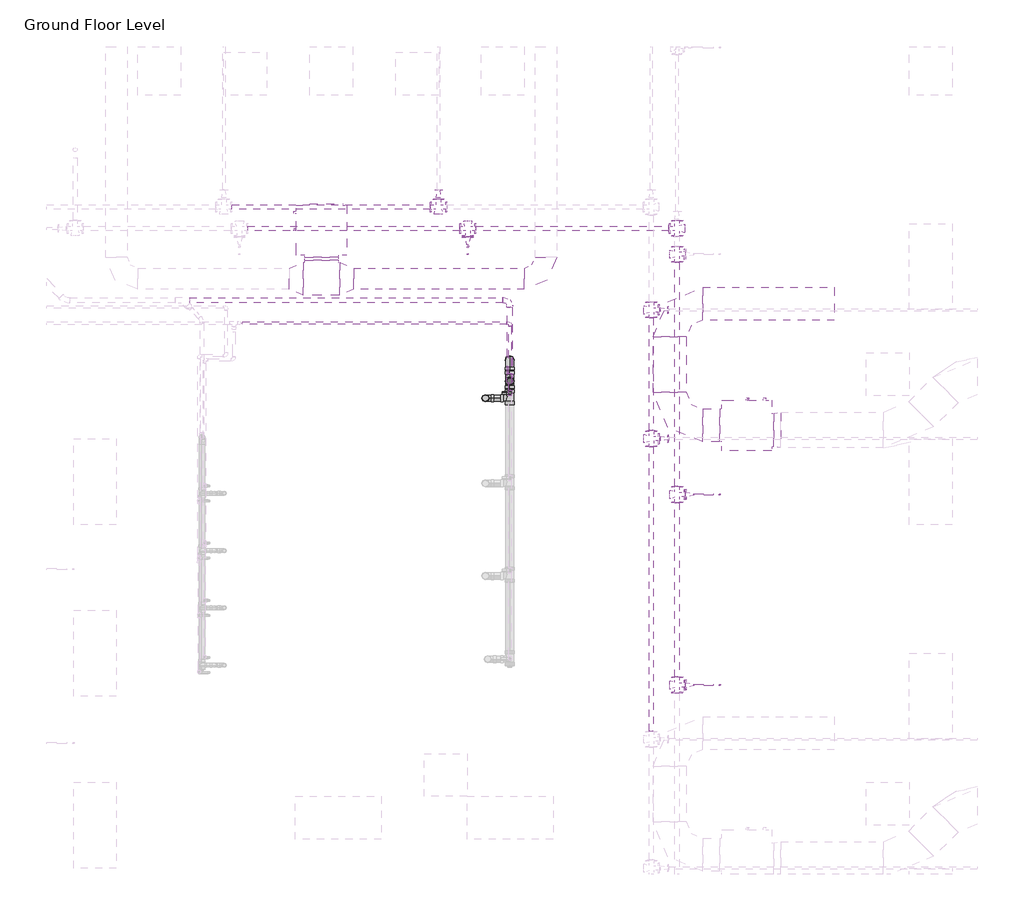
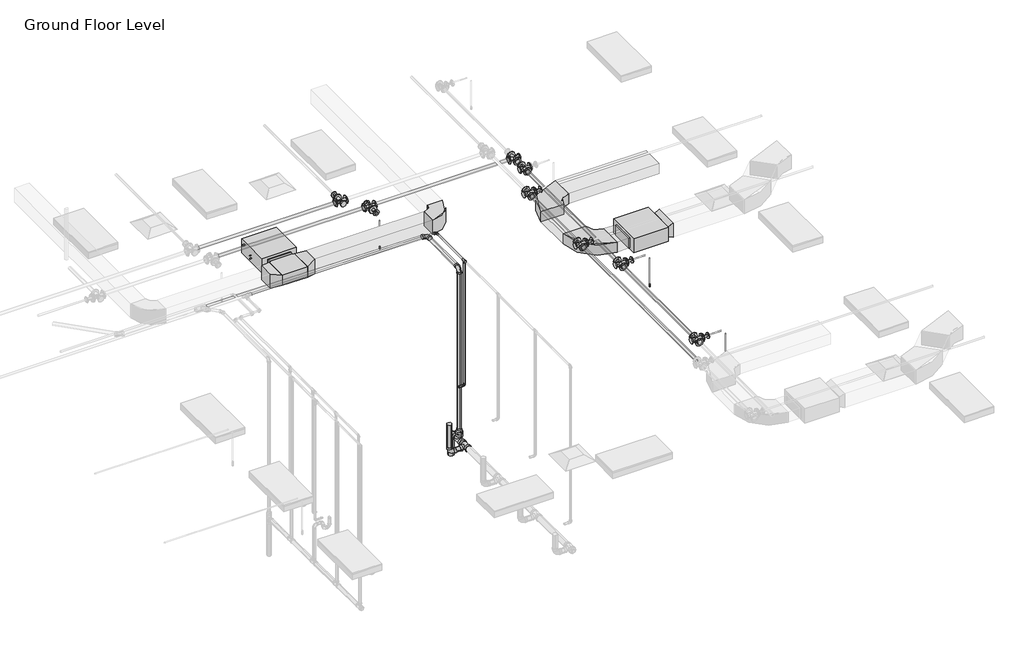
# One storey, part 62 of 68: 26 pipe segments, 24 pipe fittings, 9 duct fittings, 5 duct segments, 3 fire suppression terminals, 2 proxies.
"""IFC4 building model written with IfcOpenShell, lengths in millimetres."""

from ifc_helpers import new_model, si_unit, point, frame, frame_2d, origin, place, context, project, spatial, polyline, circle_curve, trimmed, segment, composite_curve, outline, extrude, transform, mapped, element, save
from components import fcu_daikin_iu_bad131e0, m_rectangular_elbow_radius_1_w_618da153, m_rectangular_elbow_radius_1_w_54c96895, m_rectangular_tee_standard_fa4de0e8, m_rectangular_transition_angle_45_degree_2b595dfe, m_rectangular_transition_angle_45_degree_27e6000f, m_rectangular_transition_angle_45_degree_1c32c0a1, m_rectangular_transition_angle_45_degree_6e5ad010, m_sprinkler_pendent_15_mm_pendent_06fcbd8e, m_bend_pvc_sch_40_dwv_standard_a4b99d37, m_bend_pvc_sch_40_dwv_standard_aa7efa4c, m_bend_pvc_sch_40_dwv_standard_c8221c0d, m_bend_pvc_sch_40_dwv_standard_69456cca, m_reducer_flanged_cs_class_150_standard_9dfe9ec5, m_reducer_flanged_cs_class_150_standard_a7631c35, m_reducer_flanged_cs_class_150_standard_55262df0, m_reducer_pvc_sch_40_dwv_standard_9996614f, m_tee_reducing_sanitary_pvc_sch_40_dwv_standard_b49161a9, m_tee_reducing_sanitary_pvc_sch_40_dwv_standard_c42f3c59, m_tee_round_base_flanged_cs_class_150_standard_dd767e04, standard_517a5a8d, standard_72b35c3b

model = new_model("IFC4")

# Units and contexts
model_context = context("Model", 3, world=origin())
ifc_project = project(units=[si_unit("LENGTHUNIT", "METRE", prefix="MILLI")], contexts=[model_context])

# Site, building, storey
site = spatial("IfcSite", under=ifc_project)
building = spatial("IfcBuilding", under=site)
storey = spatial("IfcBuildingStorey", under=building, Name="Ground Floor Level", Elevation=900.0)

# Proxies
placement = place(None, origin())
fcu_daikin_iu_shape = fcu_daikin_iu_bad131e0(model_context)
element("IfcBuildingElementProxy", 1, Name="FCU-DAIKIN IU : 4.5kW, 230V/50Hz/1Ph", ObjectType="FCU-DAIKIN IU : 4.5kW, 230V/50Hz/1Ph", at=placement, inside=storey, context=model_context, shape_type="MappedRepresentation", body=[
    mapped(fcu_daikin_iu_shape, transform((1027.7672395, 14745.2153534, 3934.0872564), x_axis=(-1.0, 0.0, 0.0), y_axis=(0.0, -1.0, 0.0), z_axis=(0.0, 0.0, 1.0))),
])
element("IfcBuildingElementProxy", 2, Name="FCU-DAIKIN IU : 4.5kW, 230V/50Hz/1Ph", ObjectType="FCU-DAIKIN IU : 4.5kW, 230V/50Hz/1Ph", at=placement, inside=storey, context=model_context, shape_type="MappedRepresentation", body=[
    mapped(fcu_daikin_iu_shape, transform((6968.8139492, 12019.6779527, 3934.0932729), x_axis=(0.0, 1.0, 0.0), y_axis=(-1.0, 0.0, 0.0), z_axis=(0.0, 0.0, 1.0))),
])

# Duct fittings
m_rectangular_elbow_radius_1_w_shape = m_rectangular_elbow_radius_1_w_618da153(model_context)
element("IfcDuctFitting", 3, ObjectType="M_Rectangular Elbow - Radius : 1 W", at=placement, inside=storey, context=model_context, shape_type="MappedRepresentation", body=[
    mapped(m_rectangular_elbow_radius_1_w_shape, transform((4162.7672395, 14069.8153534, 4075.2872564), x_axis=(1.0, 0.0, 0.0), y_axis=(0.0, 1.0, 0.0), z_axis=(0.0, 0.0, 1.0))),
])
m_rectangular_elbow_radius_1_w_2_shape = m_rectangular_elbow_radius_1_w_54c96895(model_context)
element("IfcDuctFitting", 4, ObjectType="M_Rectangular Elbow - Radius : 1 W", at=placement, inside=storey, context=model_context, shape_type="MappedRepresentation", body=[
    mapped(m_rectangular_elbow_radius_1_w_2_shape, transform((5893.4139492, 12019.6779527, 4075.2932729), x_axis=(0.0, -1.0, 0.0), y_axis=(1.0, 0.0, 0.0), z_axis=(0.0, 0.0, 1.0))),
])
element("IfcDuctFitting", 5, ObjectType="M_Rectangular Elbow - Radius : 1 W", at=placement, inside=storey, context=model_context, shape_type="MappedRepresentation", body=[
    mapped(m_rectangular_elbow_radius_1_w_2_shape, transform((5893.4139492, 13719.6783949, 4075.2932729), x_axis=(-1.0, 0.0, 0.0), y_axis=(0.0, -1.0, 0.0), z_axis=(0.0, 0.0, 1.0))),
])
m_rectangular_tee_standard_shape = m_rectangular_tee_standard_fa4de0e8(model_context)
element("IfcDuctFitting", 6, ObjectType="M_Rectangular Tee : Standard", at=placement, inside=storey, context=model_context, shape_type="MappedRepresentation", body=[
    mapped(m_rectangular_tee_standard_shape, transform((1027.7672395, 14069.8153534, 4075.2872564), x_axis=(-1.0, 0.0, 0.0), y_axis=(0.0, -1.0, 0.0), z_axis=(0.0, 0.0, 1.0))),
])
m_rectangular_transition_angle_45_degree_shape = m_rectangular_transition_angle_45_degree_2b595dfe(model_context)
element("IfcDuctFitting", 7, ObjectType="M_Rectangular Transition - Angle : 45 Degree", at=placement, inside=storey, context=model_context, shape_type="MappedRepresentation", body=[
    mapped(m_rectangular_transition_angle_45_degree_shape, transform((7344.2139492, 11956.1779527, 4100.0057729), x_axis=(1.0, 0.0, 0.0), y_axis=(0.0, 1.0, 0.0), z_axis=(0.0, 0.0, 1.0))),
])
m_rectangular_transition_angle_45_degree_2_shape = m_rectangular_transition_angle_45_degree_27e6000f(model_context)
element("IfcDuctFitting", 8, ObjectType="M_Rectangular Transition - Angle : 45 Degree", at=placement, inside=storey, context=model_context, shape_type="MappedRepresentation", body=[
    mapped(m_rectangular_transition_angle_45_degree_2_shape, transform((1027.7672395, 14369.8153534, 4075.2872564), x_axis=(0.0, -1.0, 0.0), y_axis=(1.0, 0.0, 0.0), z_axis=(0.0, 0.0, 1.0))),
])
m_rectangular_transition_angle_45_degree_3_shape = m_rectangular_transition_angle_45_degree_1c32c0a1(model_context)
element("IfcDuctFitting", 9, ObjectType="M_Rectangular Transition - Angle : 45 Degree", at=placement, inside=storey, context=model_context, shape_type="MappedRepresentation", body=[
    mapped(m_rectangular_transition_angle_45_degree_3_shape, transform((1027.7672395, 14326.1149854, 4075.2872564), x_axis=(0.0, -1.0, 0.0), y_axis=(1.0, 0.0, 0.0), z_axis=(0.0, 0.0, 1.0))),
])
m_rectangular_transition_angle_45_degree_4_shape = m_rectangular_transition_angle_45_degree_6e5ad010(model_context)
element("IfcDuctFitting", 10, ObjectType="M_Rectangular Transition - Angle : 45 Degree", at=placement, inside=storey, context=model_context, shape_type="MappedRepresentation", body=[
    mapped(m_rectangular_transition_angle_45_degree_4_shape, transform((771.8297395, 14069.8153534, 4075.2872564), x_axis=(-1.0, 0.0, 0.0), y_axis=(0.0, -1.0, 0.0), z_axis=(0.0, 0.0, 1.0))),
])
element("IfcDuctFitting", 11, ObjectType="M_Rectangular Transition - Angle : 45 Degree", at=placement, inside=storey, context=model_context, shape_type="MappedRepresentation", body=[
    mapped(m_rectangular_transition_angle_45_degree_4_shape, transform((1283.7047395, 14069.8153534, 4075.2872564), x_axis=(1.0, 0.0, 0.0), y_axis=(0.0, 1.0, 0.0), z_axis=(0.0, 0.0, 1.0))),
])

# Duct segments
element("IfcDuctSegment", 12, ObjectType="Radius Elbows / Taps", at=placement, inside=storey, context=model_context, shape_type="SweptSolid", body=[
    extrude(outline(polyline([(1479.1051497, 13919.8153534), (1479.1051497, 14219.8153534), (3862.7672395, 14219.8153534), (3862.7672395, 13919.8153534), (1479.1051497, 13919.8153534)])), frame((0.0, 0.0, 3925.2872564), z_axis=(0.0, 0.0, 1.0), x_axis=(1.0, 0.0, 0.0)), (0.0, 0.0, 1.0), 300.0),
])
element("IfcDuctSegment", 13, ObjectType="Radius Elbows / Taps", at=placement, inside=storey, context=model_context, shape_type="SweptSolid", body=[
    extrude(outline(polyline([(796.7672395, 14369.4532214), (1258.7672395, 14369.4532214), (1258.7672395, 14326.1149854), (796.7672395, 14326.1149854), (796.7672395, 14369.4532214)])), frame((0.0, 0.0, 3968.2872564), z_axis=(0.0, 0.0, 1.0), x_axis=(1.0, 0.0, 0.0)), (0.0, 0.0, 1.0), 214.0),
])
element("IfcDuctSegment", 14, ObjectType="Radius Elbows / Taps", at=placement, inside=storey, context=model_context, shape_type="SweptSolid", body=[
    extrude(outline(polyline([(6593.4139492, 12250.6154527), (6593.4139492, 11788.7404527), (6355.2889492, 11788.7404527), (6355.2889492, 12250.6154527), (6593.4139492, 12250.6154527)])), frame((0.0, 0.0, 3968.1432729), z_axis=(0.0, 0.0, 1.0), x_axis=(1.0, 0.0, 0.0)), (0.0, 0.0, 1.0), 214.3),
])
element("IfcDuctSegment", 15, ObjectType="Radius Elbows / Taps", at=placement, inside=storey, context=model_context, shape_type="SweptSolid", body=[
    extrude(outline(polyline([(6124.3514492, 12481.5529527), (5662.4764492, 12481.5529527), (5662.4764492, 13257.8033949), (6124.3514492, 13257.8033949), (6124.3514492, 12481.5529527)])), frame((0.0, 0.0, 3968.1432729), z_axis=(0.0, 0.0, 1.0), x_axis=(1.0, 0.0, 0.0)), (0.0, 0.0, 1.0), 214.3),
])
element("IfcDuctSegment", 16, ObjectType="Radius Elbows / Taps", at=placement, inside=storey, context=model_context, shape_type="SweptSolid", body=[
    extrude(outline(polyline([(6355.2889492, 13488.7408949), (6355.2889492, 13950.6158949), (8193.4139492, 13950.6158949), (8193.4139492, 13488.7408949), (6355.2889492, 13488.7408949)])), frame((0.0, 0.0, 3968.1432729), z_axis=(0.0, 0.0, 1.0), x_axis=(1.0, 0.0, 0.0)), (0.0, 0.0, 1.0), 214.3),
])

# Fire suppression terminals
m_sprinkler_pendent_15_mm_pendent_shape = m_sprinkler_pendent_15_mm_pendent_06fcbd8e(model_context)
element("IfcFireSuppressionTerminal", 17, ObjectType="M_Sprinkler - Pendent : 15 mm Pendent", at=placement, inside=storey, context=model_context, shape_type="MappedRepresentation", body=[
    mapped(m_sprinkler_pendent_15_mm_pendent_shape, transform((3071.8868905, 14412.7243649, 3650.0), x_axis=(1.0, 0.0, 0.0), y_axis=(0.0, 1.0, 0.0), z_axis=(0.0, 0.0, 1.0))),
])
element("IfcFireSuppressionTerminal", 18, ObjectType="M_Sprinkler - Pendent : 15 mm Pendent", at=placement, inside=storey, context=model_context, shape_type="MappedRepresentation", body=[
    mapped(m_sprinkler_pendent_15_mm_pendent_shape, transform((6592.5481019, 11054.9808263, 3650.0), x_axis=(1.0, 0.0, 0.0), y_axis=(0.0, 1.0, 0.0), z_axis=(0.0, 0.0, 1.0))),
])
element("IfcFireSuppressionTerminal", 19, ObjectType="M_Sprinkler - Pendent : 15 mm Pendent", at=placement, inside=storey, context=model_context, shape_type="MappedRepresentation", body=[
    mapped(m_sprinkler_pendent_15_mm_pendent_shape, transform((6592.5481019, 8393.5579106, 3650.0), x_axis=(1.0, 0.0, 0.0), y_axis=(0.0, 1.0, 0.0), z_axis=(0.0, 0.0, 1.0))),
])

# Pipe fittings
m_bend_pvc_sch_40_dwv_standard_shape = m_bend_pvc_sch_40_dwv_standard_a4b99d37(model_context)
element("IfcPipeFitting", 20, ObjectType="M_Bend - PVC - Sch 40 - DWV : Standard", at=placement, inside=storey, context=model_context, shape_type="MappedRepresentation", body=[
    mapped(m_bend_pvc_sch_40_dwv_standard_shape, transform((3319.2245422, 12401.0385609, 390.1593073), x_axis=(0.0, 0.0, -1.0), y_axis=(1.0, 0.0, 0.0), z_axis=(0.0, -1.0, 0.0))),
])
m_bend_pvc_sch_40_dwv_standard_2_shape = m_bend_pvc_sch_40_dwv_standard_aa7efa4c(model_context)
element("IfcPipeFitting", 21, ObjectType="M_Bend - PVC - Sch 40 - DWV : Standard", at=placement, inside=storey, context=model_context, shape_type="MappedRepresentation", body=[
    mapped(m_bend_pvc_sch_40_dwv_standard_2_shape, transform((3657.4922763, 12931.9692954, 384.8), x_axis=(0.0, 0.9999500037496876, -0.00999950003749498), y_axis=(0.0, -0.00999950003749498, -0.9999500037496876), z_axis=(-1.0, 0.0, 0.0))),
])
m_bend_pvc_sch_40_dwv_standard_3_shape = m_bend_pvc_sch_40_dwv_standard_c8221c0d(model_context)
element("IfcPipeFitting", 22, ObjectType="M_Bend - PVC - Sch 40 - DWV : Standard", at=placement, inside=storey, context=model_context, shape_type="MappedRepresentation", body=[
    mapped(m_bend_pvc_sch_40_dwv_standard_3_shape, transform((3657.4860907, 12640.4076203, 4054.1870995), x_axis=(0.0, 0.0, 1.0), y_axis=(0.0, 1.0, 0.0), z_axis=(-1.0, 0.0, 0.0))),
])
m_bend_pvc_sch_40_dwv_standard_4_shape = m_bend_pvc_sch_40_dwv_standard_69456cca(model_context)
element("IfcPipeFitting", 23, ObjectType="M_Bend - PVC - Sch 40 - DWV : Standard", at=placement, inside=storey, context=model_context, shape_type="MappedRepresentation", body=[
    mapped(m_bend_pvc_sch_40_dwv_standard_4_shape, transform((3657.4860907, 13768.7316659, 4065.526469), x_axis=(0.0, 0.9999495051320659, 0.010049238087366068), y_axis=(-0.9999499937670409, -0.00010049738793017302, 0.009999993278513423), z_axis=(0.01000049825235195, -0.010048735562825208, 0.9998995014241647))),
])
m_reducer_flanged_cs_class_150_standard_shape = m_reducer_flanged_cs_class_150_standard_9dfe9ec5(model_context)
element("IfcPipeFitting", 24, ObjectType="M_Reducer - Flanged - CS - Class 150 : Standard", at=placement, inside=storey, context=model_context, shape_type="MappedRepresentation", body=[
    mapped(m_reducer_flanged_cs_class_150_standard_shape, transform((6111.057812, 11054.9808263, 4291.2754753), x_axis=(1.0, 0.0, 0.0), y_axis=(0.0, 0.0, -1.0), z_axis=(0.0, 1.0, 0.0))),
])
element("IfcPipeFitting", 25, ObjectType="M_Reducer - Flanged - CS - Class 150 : Standard", at=placement, inside=storey, context=model_context, shape_type="MappedRepresentation", body=[
    mapped(m_reducer_flanged_cs_class_150_standard_shape, transform((6111.057812, 8393.5579106, 4291.2754753), x_axis=(1.0, 0.0, 0.0), y_axis=(0.0, 0.0, -1.0), z_axis=(0.0, 1.0, 0.0))),
])
m_reducer_flanged_cs_class_150_standard_2_shape = m_reducer_flanged_cs_class_150_standard_a7631c35(model_context)
element("IfcPipeFitting", 26, ObjectType="M_Reducer - Flanged - CS - Class 150 : Standard", at=placement, inside=storey, context=model_context, shape_type="MappedRepresentation", body=[
    mapped(m_reducer_flanged_cs_class_150_standard_2_shape, transform((2662.7672395, 15187.2009828, 4360.0), x_axis=(0.0, 1.0, 0.0), y_axis=(-1.0, 0.0, 0.0), z_axis=(0.0, 0.0, 1.0))),
])
element("IfcPipeFitting", 27, ObjectType="M_Reducer - Flanged - CS - Class 150 : Standard", at=placement, inside=storey, context=model_context, shape_type="MappedRepresentation", body=[
    mapped(m_reducer_flanged_cs_class_150_standard_2_shape, transform((5749.869498, 13635.2153534, 4360.0), x_axis=(1.0, 0.0, 0.0), y_axis=(0.0, 0.0, 1.0), z_axis=(0.0, -1.0, 0.0))),
])
element("IfcPipeFitting", 28, ObjectType="M_Reducer - Flanged - CS - Class 150 : Standard", at=placement, inside=storey, context=model_context, shape_type="MappedRepresentation", body=[
    mapped(m_reducer_flanged_cs_class_150_standard_2_shape, transform((5749.869498, 11835.2153534, 4360.0), x_axis=(1.0, 0.0, 0.0), y_axis=(0.0, 0.0, 1.0), z_axis=(0.0, -1.0, 0.0))),
])
m_reducer_flanged_cs_class_150_standard_3_shape = m_reducer_flanged_cs_class_150_standard_55262df0(model_context)
element("IfcPipeFitting", 29, ObjectType="M_Reducer - Flanged - CS - Class 150 : Standard", at=placement, inside=storey, context=model_context, shape_type="MappedRepresentation", body=[
    mapped(m_reducer_flanged_cs_class_150_standard_3_shape, transform((3071.8868905, 14659.4681847, 4291.0943441), x_axis=(0.0, -1.0, 0.0), y_axis=(1.0, 0.0, 0.0), z_axis=(0.0, 0.0, 1.0))),
])
m_reducer_pvc_sch_40_dwv_standard_shape = m_reducer_pvc_sch_40_dwv_standard_9996614f(model_context)
element("IfcPipeFitting", 30, ObjectType="M_Reducer - PVC - Sch 40 - DWV : Standard", at=placement, inside=storey, context=model_context, shape_type="MappedRepresentation", body=[
    mapped(m_reducer_pvc_sch_40_dwv_standard_shape, transform((3657.4891752, 12640.1615283, 533.8243961), x_axis=(0.0, 7.101608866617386e-05, 0.9999999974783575), y_axis=(0.0, 0.9999999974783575, -7.101608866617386e-05), z_axis=(-1.0, 0.0, 0.0))),
])
m_tee_reducing_sanitary_pvc_sch_40_dwv_standard_shape = m_tee_reducing_sanitary_pvc_sch_40_dwv_standard_b49161a9(model_context)
element("IfcPipeFitting", 31, ObjectType="M_Tee Reducing Sanitary - PVC - Sch 40 - DWV : Standard", at=placement, inside=storey, context=model_context, shape_type="MappedRepresentation", body=[
    mapped(m_tee_reducing_sanitary_pvc_sch_40_dwv_standard_shape, transform((3657.4922763, 12401.038061, 390.1093123), x_axis=(0.0, -0.9999500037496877, 0.009999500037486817), y_axis=(1.0000000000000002, 0.0, 0.0), z_axis=(0.0, 0.009999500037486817, 0.9999500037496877))),
])
m_tee_reducing_sanitary_pvc_sch_40_dwv_standard_2_shape = m_tee_reducing_sanitary_pvc_sch_40_dwv_standard_c42f3c59(model_context)
element("IfcPipeFitting", 32, ObjectType="M_Tee Reducing Sanitary - PVC - Sch 40 - DWV : Standard", at=placement, inside=storey, context=model_context, shape_type="MappedRepresentation", body=[
    mapped(m_tee_reducing_sanitary_pvc_sch_40_dwv_standard_2_shape, transform((3657.4922763, 12640.3832411, 387.7158605), x_axis=(0.0, -0.9999500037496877, 0.009999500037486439), y_axis=(0.0, -0.009999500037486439, -0.9999500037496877), z_axis=(1.0, 0.0, 0.0))),
])
m_tee_round_base_flanged_cs_class_150_standard_shape = m_tee_round_base_flanged_cs_class_150_standard_dd767e04(model_context)
element("IfcPipeFitting", 33, ObjectType="M_Tee Round Base - Flanged - CS - Class 150 : Standard", at=placement, inside=storey, context=model_context, shape_type="MappedRepresentation", body=[
    mapped(m_tee_round_base_flanged_cs_class_150_standard_shape, transform((5997.057812, 14773.4681847, 4291.0943441), x_axis=(0.0, -1.0, 0.0), y_axis=(1.0, 0.0, 0.0), z_axis=(0.0, 0.0, 1.0))),
])
element("IfcPipeFitting", 34, ObjectType="M_Tee Round Base - Flanged - CS - Class 150 : Standard", at=placement, inside=storey, context=model_context, shape_type="MappedRepresentation", body=[
    mapped(m_tee_round_base_flanged_cs_class_150_standard_shape, transform((3071.8868905, 14773.4681847, 4291.0943441), x_axis=(-1.0, 0.0, 0.0), y_axis=(0.0, 1.0, 0.0), z_axis=(0.0, 0.0, -1.0))),
])
element("IfcPipeFitting", 35, ObjectType="M_Tee Round Base - Flanged - CS - Class 150 : Standard", at=placement, inside=storey, context=model_context, shape_type="MappedRepresentation", body=[
    mapped(m_tee_round_base_flanged_cs_class_150_standard_shape, transform((5997.057812, 14412.7243649, 4291.0943441), x_axis=(0.0, 1.0, 0.0), y_axis=(-1.0, 0.0, 0.0), z_axis=(0.0, 0.0, 1.0))),
])
element("IfcPipeFitting", 36, ObjectType="M_Tee Round Base - Flanged - CS - Class 150 : Standard", at=placement, inside=storey, context=model_context, shape_type="MappedRepresentation", body=[
    mapped(m_tee_round_base_flanged_cs_class_150_standard_shape, transform((5997.057812, 11054.9808263, 4291.0943441), x_axis=(0.0, 1.0, 0.0), y_axis=(-1.0, 0.0, 0.0), z_axis=(0.0, 0.0, 1.0))),
])
element("IfcPipeFitting", 37, ObjectType="M_Tee Round Base - Flanged - CS - Class 150 : Standard", at=placement, inside=storey, context=model_context, shape_type="MappedRepresentation", body=[
    mapped(m_tee_round_base_flanged_cs_class_150_standard_shape, transform((5997.057812, 8393.5579106, 4291.0943441), x_axis=(0.0, 1.0, 0.0), y_axis=(-1.0, 0.0, 0.0), z_axis=(0.0, 0.0, 1.0))),
])
element("IfcPipeFitting", 38, ObjectType="M_Tee Round Base - Flanged - CS - Class 150 : Standard", at=placement, inside=storey, context=model_context, shape_type="MappedRepresentation", body=[
    mapped(m_tee_round_base_flanged_cs_class_150_standard_shape, transform((2662.7672395, 15073.2009828, 4360.0), x_axis=(-1.0, 0.0, 0.0), y_axis=(0.0, -1.0, 0.0), z_axis=(0.0, 0.0, 1.0))),
])
element("IfcPipeFitting", 39, ObjectType="M_Tee Round Base - Flanged - CS - Class 150 : Standard", at=placement, inside=storey, context=model_context, shape_type="MappedRepresentation", body=[
    mapped(m_tee_round_base_flanged_cs_class_150_standard_shape, transform((5635.869498, 13635.2153534, 4360.0), x_axis=(0.0, 1.0, 0.0), y_axis=(-1.0, 0.0, 0.0), z_axis=(0.0, 0.0, 1.0))),
])
element("IfcPipeFitting", 40, ObjectType="M_Tee Round Base - Flanged - CS - Class 150 : Standard", at=placement, inside=storey, context=model_context, shape_type="MappedRepresentation", body=[
    mapped(m_tee_round_base_flanged_cs_class_150_standard_shape, transform((5635.869498, 11835.2153534, 4360.0), x_axis=(0.0, 1.0, 0.0), y_axis=(-1.0, 0.0, 0.0), z_axis=(0.0, 0.0, 1.0))),
])
standard_shape = standard_517a5a8d(model_context)
element("IfcPipeFitting", 41, ObjectType="M_Elbow - CPVC - Sch 40 : Standard", at=placement, inside=storey, context=model_context, shape_type="MappedRepresentation", body=[
    mapped(standard_shape, transform((3662.4674395, 13449.9865561, 4315.0), x_axis=(0.0, 1.0, 0.0), y_axis=(-1.0, 0.0, 0.0), z_axis=(0.0, 0.0, 1.0))),
])
element("IfcPipeFitting", 42, ObjectType="M_Elbow - CPVC - Sch 40 : Standard", at=placement, inside=storey, context=model_context, shape_type="MappedRepresentation", body=[
    mapped(standard_shape, transform((3662.4674395, 12474.4768272, 1655.0), x_axis=(0.0, 0.0, -1.0), y_axis=(-1.0, 0.0, 0.0), z_axis=(0.0, 1.0, 0.0))),
])
standard_2_shape = standard_72b35c3b(model_context)
element("IfcPipeFitting", 43, ObjectType="M_Tee - CPVC - Sch 40 : Standard", at=placement, inside=storey, context=model_context, shape_type="MappedRepresentation", body=[
    mapped(standard_2_shape, transform((3662.4674395, 12474.4768272, 4315.0), x_axis=(0.0, -1.0, 0.0), y_axis=(0.0, 0.0, 1.0), z_axis=(-1.0, 0.0, 0.0))),
])

# Pipe segments
element("IfcPipeSegment", 44, ObjectType="CPVC", at=placement, inside=storey, context=model_context, shape_type="SweptSolid", body=[
    extrude(outline(composite_curve([segment(trimmed(circle_curve(frame_2d((13449.9865561, 4315.0)), 16.7005), [point((13433.2860561, 4315.0))], [point((13449.9865561, 4331.7005))], False, "CARTESIAN"), True, "CONTINUOUS"), segment(trimmed(circle_curve(frame_2d((13449.9865561, 4315.0)), 16.7005), [point((13449.9865561, 4331.7005))], [point((13466.6870561, 4315.0))], False, "CARTESIAN"), True, "CONTINUOUS"), segment(trimmed(circle_curve(frame_2d((13449.9865561, 4315.0)), 16.7005), [point((13466.6870561, 4315.0))], [point((13449.9865561, 4298.2995))], False, "CARTESIAN"), True, "CONTINUOUS"), segment(trimmed(circle_curve(frame_2d((13449.9865561, 4315.0)), 16.7005), [point((13449.9865561, 4298.2995))], [point((13433.2860561, 4315.0))], False, "CARTESIAN"), True, "CONTINUOUS")], self_intersect=False)), frame((-77.1388855, 0.0, 0.0), z_axis=(1.0, 0.0, 0.0), x_axis=(0.0, 1.0, 0.0)), (0.0, 0.0, 1.0), 3696.343775),
])
element("IfcPipeSegment", 45, ObjectType="CPVC", at=placement, inside=storey, context=model_context, shape_type="SweptSolid", body=[
    extrude(outline(composite_curve([segment(trimmed(circle_curve(frame_2d((12474.4768272, 1655.0)), 16.7005), [point((12491.1773272, 1655.0))], [point((12474.4768272, 1638.2995))], False, "CARTESIAN"), True, "CONTINUOUS"), segment(trimmed(circle_curve(frame_2d((12474.4768272, 1655.0)), 16.7005), [point((12474.4768272, 1638.2995))], [point((12457.7763272, 1655.0))], False, "CARTESIAN"), True, "CONTINUOUS"), segment(trimmed(circle_curve(frame_2d((12474.4768272, 1655.0)), 16.7005), [point((12457.7763272, 1655.0))], [point((12474.4768272, 1671.7005))], False, "CARTESIAN"), True, "CONTINUOUS"), segment(trimmed(circle_curve(frame_2d((12474.4768272, 1655.0)), 16.7005), [point((12474.4768272, 1671.7005))], [point((12491.1773272, 1655.0))], False, "CARTESIAN"), True, "CONTINUOUS")], self_intersect=False)), frame((3552.7672395, 0.0, 0.0), z_axis=(1.0, 0.0, 0.0), x_axis=(0.0, 1.0, 0.0)), (0.0, 0.0, 1.0), 66.43765),
])
element("IfcPipeSegment", 46, ObjectType="CPVC", at=placement, inside=storey, context=model_context, shape_type="SweptSolid", body=[
    extrude(outline(composite_curve([segment(trimmed(circle_curve(frame_2d((3662.4674395, 12474.4768272)), 16.7005), [point((3679.1679395, 12474.4768272))], [point((3662.4674395, 12457.7763272))], False, "CARTESIAN"), True, "CONTINUOUS"), segment(trimmed(circle_curve(frame_2d((3662.4674395, 12474.4768272)), 16.7005), [point((3662.4674395, 12457.7763272))], [point((3645.7669395, 12474.4768272))], False, "CARTESIAN"), True, "CONTINUOUS"), segment(trimmed(circle_curve(frame_2d((3662.4674395, 12474.4768272)), 16.7005), [point((3645.7669395, 12474.4768272))], [point((3662.4674395, 12491.1773272))], False, "CARTESIAN"), True, "CONTINUOUS"), segment(trimmed(circle_curve(frame_2d((3662.4674395, 12474.4768272)), 16.7005), [point((3662.4674395, 12491.1773272))], [point((3679.1679395, 12474.4768272))], False, "CARTESIAN"), True, "CONTINUOUS")], self_intersect=False)), frame((0.0, 0.0, 1698.26255), z_axis=(0.0, 0.0, 1.0), x_axis=(1.0, 0.0, 0.0)), (0.0, 0.0, 1.0), 2577.03725),
])
element("IfcPipeSegment", 47, ObjectType="CPVC", at=placement, inside=storey, context=model_context, shape_type="SweptSolid", body=[
    extrude(outline(composite_curve([segment(trimmed(circle_curve(frame_2d((4315.0, 3662.4674395)), 16.7005), [point((4315.0, 3645.7669395))], [point((4298.2995, 3662.4674395))], False, "CARTESIAN"), True, "CONTINUOUS"), segment(trimmed(circle_curve(frame_2d((4315.0, 3662.4674395)), 16.7005), [point((4298.2995, 3662.4674395))], [point((4315.0, 3679.1679395))], False, "CARTESIAN"), True, "CONTINUOUS"), segment(trimmed(circle_curve(frame_2d((4315.0, 3662.4674395)), 16.7005), [point((4315.0, 3679.1679395))], [point((4331.7005, 3662.4674395))], False, "CARTESIAN"), True, "CONTINUOUS"), segment(trimmed(circle_curve(frame_2d((4315.0, 3662.4674395)), 16.7005), [point((4331.7005, 3662.4674395))], [point((4315.0, 3645.7669395))], False, "CARTESIAN"), True, "CONTINUOUS")], self_intersect=False)), frame((0.0, 12514.1770272, 0.0), z_axis=(0.0, 1.0, 0.0), x_axis=(0.0, 0.0, 1.0)), (0.0, 0.0, 1.0), 892.546979),
])
element("IfcPipeSegment", 48, ObjectType="PVC - DWV", at=placement, inside=storey, context=model_context, shape_type="SweptSolid", body=[
    extrude(outline(composite_curve([segment(trimmed(circle_curve(frame_2d((3657.4922763, 12931.9692954)), 57.15), [point((3714.6422763, 12931.9692954))], [point((3657.4922763, 12874.8192954))], False, "CARTESIAN"), True, "CONTINUOUS"), segment(trimmed(circle_curve(frame_2d((3657.4922763, 12931.9692954)), 57.15), [point((3657.4922763, 12874.8192954))], [point((3600.3422763, 12931.9692954))], False, "CARTESIAN"), True, "CONTINUOUS"), segment(trimmed(circle_curve(frame_2d((3657.4922763, 12931.9692954)), 57.15), [point((3600.3422763, 12931.9692954))], [point((3657.4922763, 12989.1192954))], False, "CARTESIAN"), True, "CONTINUOUS"), segment(trimmed(circle_curve(frame_2d((3657.4922763, 12931.9692954)), 57.15), [point((3657.4922763, 12989.1192954))], [point((3714.6422763, 12931.9692954))], False, "CARTESIAN"), True, "CONTINUOUS")], self_intersect=False)), frame((0.0, 0.0, -100.0), z_axis=(0.0, 0.0, 1.0), x_axis=(1.0, 0.0, 0.0)), (0.0, 0.0, 1.0), 341.925),
])
element("IfcPipeSegment", 49, ObjectType="PVC - DWV", at=placement, inside=storey, context=model_context, shape_type="SweptSolid", body=[
    extrude(outline(composite_curve([segment(trimmed(circle_curve(frame_2d((0.0, -44.45)), 44.45), [point((-44.45, -44.45))], [point((0.0, 0.0))], False, "CARTESIAN"), True, "CONTINUOUS"), segment(trimmed(circle_curve(frame_2d((0.0, -44.45)), 44.45), [point((0.0, 0.0))], [point((44.45, -44.45))], False, "CARTESIAN"), True, "CONTINUOUS"), segment(trimmed(circle_curve(frame_2d((0.0, -44.45)), 44.45), [point((44.45, -44.45))], [point((0.0, -88.9))], False, "CARTESIAN"), True, "CONTINUOUS"), segment(trimmed(circle_curve(frame_2d((0.0, -44.45)), 44.45), [point((0.0, -88.9))], [point((-44.45, -44.45))], False, "CARTESIAN"), True, "CONTINUOUS")], self_intersect=False)), frame((3319.2245422, 12356.5885609, 506.0594614), z_axis=(0.0, -1.0330815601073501e-06, 0.9999999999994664), x_axis=(-1.0, 0.0, 0.0)), (0.0, 0.0, 1.0), 483.9404927),
])
element("IfcPipeSegment", 50, ObjectType="PVC - DWV", at=placement, inside=storey, context=model_context, shape_type="SweptSolid", body=[
    extrude(outline(composite_curve([segment(trimmed(circle_curve(frame_2d((12401.038061, 390.1093123)), 44.45), [point((12356.588061, 390.1093123))], [point((12401.038061, 434.5593123))], False, "CARTESIAN"), True, "CONTINUOUS"), segment(trimmed(circle_curve(frame_2d((12401.038061, 390.1093123)), 44.45), [point((12401.038061, 434.5593123))], [point((12445.488061, 390.1093123))], False, "CARTESIAN"), True, "CONTINUOUS"), segment(trimmed(circle_curve(frame_2d((12401.038061, 390.1093123)), 44.45), [point((12445.488061, 390.1093123))], [point((12401.038061, 345.6593123))], False, "CARTESIAN"), True, "CONTINUOUS"), segment(trimmed(circle_curve(frame_2d((12401.038061, 390.1093123)), 44.45), [point((12401.038061, 345.6593123))], [point((12356.588061, 390.1093123))], False, "CARTESIAN"), True, "CONTINUOUS")], self_intersect=False)), frame((3435.1247422, 0.0, 0.0), z_axis=(1.0, 0.0, 0.0), x_axis=(0.0, 1.0, 0.0)), (0.0, 0.0, 1.0), 93.767334),
])
element("IfcPipeSegment", 51, ObjectType="PVC - DWV", at=placement, inside=storey, context=model_context, shape_type="SweptSolid", body=[
    extrude(outline(composite_curve([segment(trimmed(circle_curve(frame_2d((0.0, 36.5125)), 36.5125), [point((36.5125, 36.5125))], [point((0.0, 0.0))], False, "CARTESIAN"), True, "CONTINUOUS"), segment(trimmed(circle_curve(frame_2d((0.0, 36.5125)), 36.5125), [point((0.0, 0.0))], [point((-36.5125, 36.5125))], False, "CARTESIAN"), True, "CONTINUOUS"), segment(trimmed(circle_curve(frame_2d((0.0, 36.5125)), 36.5125), [point((-36.5125, 36.5125))], [point((0.0, 73.025))], False, "CARTESIAN"), True, "CONTINUOUS"), segment(trimmed(circle_curve(frame_2d((0.0, 36.5125)), 36.5125), [point((0.0, 73.025))], [point((36.5125, 36.5125))], False, "CARTESIAN"), True, "CONTINUOUS")], self_intersect=False)), frame((3657.4860907, 12739.0497603, 4091.6927716), z_axis=(0.0, 0.9999495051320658, 0.010049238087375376), x_axis=(1.0, 0.0, 0.0)), (0.0, 0.0, 1.0), 930.3528981),
])
element("IfcPipeSegment", 52, ObjectType="PVC - DWV", at=placement, inside=storey, context=model_context, shape_type="SweptSolid", body=[
    extrude(outline(composite_curve([segment(trimmed(circle_curve(frame_2d((0.0, 57.1499999)), 57.15), [point((-57.15, 57.1499999))], [point((0.0, 114.3))], False, "CARTESIAN"), True, "CONTINUOUS"), segment(trimmed(circle_curve(frame_2d((0.0, 57.1499999)), 57.15), [point((0.0, 114.3))], [point((57.15, 57.1499999))], False, "CARTESIAN"), True, "CONTINUOUS"), segment(trimmed(circle_curve(frame_2d((0.0, 57.1499999)), 57.15), [point((57.15, 57.1499999))], [point((0.0, 0.0))], False, "CARTESIAN"), True, "CONTINUOUS"), segment(trimmed(circle_curve(frame_2d((0.0, 57.1499999)), 57.15), [point((0.0, 0.0))], [point((-57.15, 57.1499999))], False, "CARTESIAN"), True, "CONTINUOUS")], self_intersect=False)), frame((3657.4891752, 12583.0107966, 528.5214125), z_axis=(0.0, 0.0001378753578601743, 0.9999999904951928), x_axis=(1.0, 0.0, 0.0)), (0.0, 0.0, 1.0), 5.3108632),
])
element("IfcPipeSegment", 53, ObjectType="PVC - DWV", at=placement, inside=storey, context=model_context, shape_type="SweptSolid", body=[
    extrude(outline(composite_curve([segment(trimmed(circle_curve(frame_2d((0.0, -57.15)), 57.15), [point((57.15, -57.15))], [point((0.0, -114.3))], False, "CARTESIAN"), True, "CONTINUOUS"), segment(trimmed(circle_curve(frame_2d((0.0, -57.15)), 57.15), [point((0.0, -114.3))], [point((-57.15, -57.15))], False, "CARTESIAN"), True, "CONTINUOUS"), segment(trimmed(circle_curve(frame_2d((0.0, -57.15)), 57.15), [point((-57.15, -57.15))], [point((0.0, 0.0))], False, "CARTESIAN"), True, "CONTINUOUS"), segment(trimmed(circle_curve(frame_2d((0.0, -57.15)), 57.15), [point((0.0, 0.0))], [point((57.15, -57.15))], False, "CARTESIAN"), True, "CONTINUOUS")], self_intersect=False)), frame((3657.4922763, 12789.6729101, 443.3758213), z_axis=(0.0, -0.9999500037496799, 0.009999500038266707), x_axis=(1.0, 0.0, 0.0)), (0.0, 0.0, 1.0), 10.815727),
])
element("IfcPipeSegment", 54, ObjectType="PVC - DWV", at=placement, inside=storey, context=model_context, shape_type="SweptSolid", body=[
    extrude(outline(composite_curve([segment(trimmed(circle_curve(frame_2d((0.0, 36.5125)), 36.5125), [point((-36.5125, 36.5125))], [point((0.0, 73.025))], False, "CARTESIAN"), True, "CONTINUOUS"), segment(trimmed(circle_curve(frame_2d((0.0, 36.5125)), 36.5125), [point((0.0, 73.025))], [point((36.5125, 36.5125))], False, "CARTESIAN"), True, "CONTINUOUS"), segment(trimmed(circle_curve(frame_2d((0.0, 36.5125)), 36.5125), [point((36.5125, 36.5125))], [point((0.0, 0.0))], False, "CARTESIAN"), True, "CONTINUOUS"), segment(trimmed(circle_curve(frame_2d((0.0, 36.5125)), 36.5125), [point((0.0, 0.0))], [point((-36.5125, 36.5125))], False, "CARTESIAN"), True, "CONTINUOUS")], self_intersect=False)), frame((3657.4891752, 12603.6564102, 637.7731169), z_axis=(-9.298042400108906e-07, 7.1956944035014e-05, 0.9999999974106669), x_axis=(0.9999999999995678, 6.690470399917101e-11, 9.298042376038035e-07)), (0.0, 0.0, 1.0), 3317.402556),
])
element("IfcPipeSegment", 55, ObjectType="PVC - DWV", at=placement, inside=storey, context=model_context, shape_type="SweptSolid", body=[
    extrude(outline(composite_curve([segment(trimmed(circle_curve(frame_2d((0.0, -57.15)), 57.15), [point((57.15, -57.15))], [point((0.0, -114.3))], False, "CARTESIAN"), True, "CONTINUOUS"), segment(trimmed(circle_curve(frame_2d((0.0, -57.15)), 57.15), [point((0.0, -114.3))], [point((-57.15, -57.15))], False, "CARTESIAN"), True, "CONTINUOUS"), segment(trimmed(circle_curve(frame_2d((0.0, -57.15)), 57.15), [point((-57.15, -57.15))], [point((0.0, 0.0))], False, "CARTESIAN"), True, "CONTINUOUS"), segment(trimmed(circle_curve(frame_2d((0.0, -57.15)), 57.15), [point((0.0, 0.0))], [point((57.15, -57.15))], False, "CARTESIAN"), True, "CONTINUOUS")], self_intersect=False)), frame((3657.4922763, 12531.8027259, 445.9545231), z_axis=(0.0, -0.9999500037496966, 0.009999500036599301), x_axis=(1.0, 0.0, 0.0)), (0.0, 0.0, 1.0), 9.549703),
])
element("IfcPipeSegment", 56, ObjectType="PVC - DWV", at=placement, inside=storey, context=model_context, shape_type="SweptSolid", body=[
    extrude(outline(composite_curve([segment(trimmed(circle_curve(frame_2d((0.0, -36.5125)), 36.5125), [point((0.0, -73.025))], [point((-36.5125, -36.5125))], False, "CARTESIAN"), True, "CONTINUOUS"), segment(trimmed(circle_curve(frame_2d((0.0, -36.5125)), 36.5125), [point((-36.5125, -36.5125))], [point((0.0, 0.0))], False, "CARTESIAN"), True, "CONTINUOUS"), segment(trimmed(circle_curve(frame_2d((0.0, -36.5125)), 36.5125), [point((0.0, 0.0))], [point((36.5124999, -36.5125))], False, "CARTESIAN"), True, "CONTINUOUS"), segment(trimmed(circle_curve(frame_2d((0.0, -36.5125)), 36.5125), [point((36.5124999, -36.5125))], [point((0.0, -73.025))], False, "CARTESIAN"), True, "CONTINUOUS")], self_intersect=False)), frame((3558.47698, 13805.2441659, 4066.516709), z_axis=(-0.9999499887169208, 0.0, 0.010001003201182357), x_axis=(0.010001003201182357, 0.0, 0.9999499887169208)), (0.0, 0.0, 1.0), 4372.6285655),
])
element("IfcPipeSegment", 57, ObjectType="Steel flanged", at=placement, inside=storey, context=model_context, shape_type="SweptSolid", body=[
    extrude(outline(composite_curve([segment(trimmed(circle_curve(frame_2d((3071.8868905, 14412.7243649)), 10.668), [point((3061.2188905, 14412.7243649))], [point((3071.8868905, 14423.3923649))], False, "CARTESIAN"), True, "CONTINUOUS"), segment(trimmed(circle_curve(frame_2d((3071.8868905, 14412.7243649)), 10.668), [point((3071.8868905, 14423.3923649))], [point((3082.5548905, 14412.7243649))], False, "CARTESIAN"), True, "CONTINUOUS"), segment(trimmed(circle_curve(frame_2d((3071.8868905, 14412.7243649)), 10.668), [point((3082.5548905, 14412.7243649))], [point((3071.8868905, 14402.0563649))], False, "CARTESIAN"), True, "CONTINUOUS"), segment(trimmed(circle_curve(frame_2d((3071.8868905, 14412.7243649)), 10.668), [point((3071.8868905, 14402.0563649))], [point((3061.2188905, 14412.7243649))], False, "CARTESIAN"), True, "CONTINUOUS")], self_intersect=False)), frame((0.0, 0.0, 3650.0), z_axis=(0.0, 0.0, 1.0), x_axis=(1.0, 0.0, 0.0)), (0.0, 0.0, 1.0), 548.2668816),
])
element("IfcPipeSegment", 58, ObjectType="Steel flanged", at=placement, inside=storey, context=model_context, shape_type="SweptSolid", body=[
    extrude(outline(composite_curve([segment(trimmed(circle_curve(frame_2d((4291.0943441, 3071.8868905)), 10.668), [point((4291.0943441, 3082.5548905))], [point((4301.7623441, 3071.8868905))], False, "CARTESIAN"), True, "CONTINUOUS"), segment(trimmed(circle_curve(frame_2d((4291.0943441, 3071.8868905)), 10.668), [point((4301.7623441, 3071.8868905))], [point((4291.0943441, 3061.2188905))], False, "CARTESIAN"), True, "CONTINUOUS"), segment(trimmed(circle_curve(frame_2d((4291.0943441, 3071.8868905)), 10.668), [point((4291.0943441, 3061.2188905))], [point((4280.4263441, 3071.8868905))], False, "CARTESIAN"), True, "CONTINUOUS"), segment(trimmed(circle_curve(frame_2d((4291.0943441, 3071.8868905)), 10.668), [point((4280.4263441, 3071.8868905))], [point((4291.0943441, 3082.5548905))], False, "CARTESIAN"), True, "CONTINUOUS")], self_intersect=False)), frame((0.0, 14505.7329586, 0.0), z_axis=(0.0, 1.0, 0.0), x_axis=(0.0, 0.0, 1.0)), (0.0, 0.0, 1.0), 26.7352261),
])
element("IfcPipeSegment", 59, ObjectType="Steel flanged", at=placement, inside=storey, context=model_context, shape_type="SweptSolid", body=[
    extrude(outline(composite_curve([segment(trimmed(circle_curve(frame_2d((14773.4681847, 4291.0943441)), 30.1625), [point((14743.3056847, 4291.0943441))], [point((14773.4681847, 4321.2568441))], False, "CARTESIAN"), True, "CONTINUOUS"), segment(trimmed(circle_curve(frame_2d((14773.4681847, 4291.0943441)), 30.1625), [point((14773.4681847, 4321.2568441))], [point((14803.6306847, 4291.0943441))], False, "CARTESIAN"), True, "CONTINUOUS"), segment(trimmed(circle_curve(frame_2d((14773.4681847, 4291.0943441)), 30.1625), [point((14803.6306847, 4291.0943441))], [point((14773.4681847, 4260.9318441))], False, "CARTESIAN"), True, "CONTINUOUS"), segment(trimmed(circle_curve(frame_2d((14773.4681847, 4291.0943441)), 30.1625), [point((14773.4681847, 4260.9318441))], [point((14743.3056847, 4291.0943441))], False, "CARTESIAN"), True, "CONTINUOUS")], self_intersect=False)), frame((3185.8868905, 0.0, 0.0), z_axis=(1.0, 0.0, 0.0), x_axis=(0.0, 1.0, 0.0)), (0.0, 0.0, 1.0), 2697.1709215),
])
element("IfcPipeSegment", 60, ObjectType="Steel flanged", at=placement, inside=storey, context=model_context, shape_type="SweptSolid", body=[
    extrude(outline(composite_curve([segment(trimmed(circle_curve(frame_2d((14773.4681847, 4291.0943441)), 30.1625), [point((14743.3056847, 4291.0943441))], [point((14773.4681847, 4321.2568441))], False, "CARTESIAN"), True, "CONTINUOUS"), segment(trimmed(circle_curve(frame_2d((14773.4681847, 4291.0943441)), 30.1625), [point((14773.4681847, 4321.2568441))], [point((14803.6306847, 4291.0943441))], False, "CARTESIAN"), True, "CONTINUOUS"), segment(trimmed(circle_curve(frame_2d((14773.4681847, 4291.0943441)), 30.1625), [point((14803.6306847, 4291.0943441))], [point((14773.4681847, 4260.9318441))], False, "CARTESIAN"), True, "CONTINUOUS"), segment(trimmed(circle_curve(frame_2d((14773.4681847, 4291.0943441)), 30.1625), [point((14773.4681847, 4260.9318441))], [point((14743.3056847, 4291.0943441))], False, "CARTESIAN"), True, "CONTINUOUS")], self_intersect=False)), frame((-4.3252882, 0.0, 0.0), z_axis=(1.0, 0.0, 0.0), x_axis=(0.0, 1.0, 0.0)), (0.0, 0.0, 1.0), 2962.2121787),
])
element("IfcPipeSegment", 61, ObjectType="Steel flanged", at=placement, inside=storey, context=model_context, shape_type="SweptSolid", body=[
    extrude(outline(composite_curve([segment(trimmed(circle_curve(frame_2d((6592.5481019, 11054.9808263)), 10.668), [point((6581.8801019, 11054.9808263))], [point((6592.5481019, 11065.6488263))], False, "CARTESIAN"), True, "CONTINUOUS"), segment(trimmed(circle_curve(frame_2d((6592.5481019, 11054.9808263)), 10.668), [point((6592.5481019, 11065.6488263))], [point((6603.2161019, 11054.9808263))], False, "CARTESIAN"), True, "CONTINUOUS"), segment(trimmed(circle_curve(frame_2d((6592.5481019, 11054.9808263)), 10.668), [point((6603.2161019, 11054.9808263))], [point((6592.5481019, 11044.3128263))], False, "CARTESIAN"), True, "CONTINUOUS"), segment(trimmed(circle_curve(frame_2d((6592.5481019, 11054.9808263)), 10.668), [point((6592.5481019, 11044.3128263))], [point((6581.8801019, 11054.9808263))], False, "CARTESIAN"), True, "CONTINUOUS")], self_intersect=False)), frame((0.0, 0.0, 3650.0), z_axis=(0.0, 0.0, 1.0), x_axis=(1.0, 0.0, 0.0)), (0.0, 0.0, 1.0), 548.2668816),
])
element("IfcPipeSegment", 62, ObjectType="Steel flanged", at=placement, inside=storey, context=model_context, shape_type="SweptSolid", body=[
    extrude(outline(composite_curve([segment(trimmed(circle_curve(frame_2d((11054.9808263, 4291.2754753)), 10.668), [point((11065.6488263, 4291.2754753))], [point((11054.9808263, 4280.6074753))], False, "CARTESIAN"), True, "CONTINUOUS"), segment(trimmed(circle_curve(frame_2d((11054.9808263, 4291.2754753)), 10.668), [point((11054.9808263, 4280.6074753))], [point((11044.3128263, 4291.2754753))], False, "CARTESIAN"), True, "CONTINUOUS"), segment(trimmed(circle_curve(frame_2d((11054.9808263, 4291.2754753)), 10.668), [point((11044.3128263, 4291.2754753))], [point((11054.9808263, 4301.9434753))], False, "CARTESIAN"), True, "CONTINUOUS"), segment(trimmed(circle_curve(frame_2d((11054.9808263, 4291.2754753)), 10.668), [point((11054.9808263, 4301.9434753))], [point((11065.6488263, 4291.2754753))], False, "CARTESIAN"), True, "CONTINUOUS")], self_intersect=False)), frame((6238.057812, 0.0, 0.0), z_axis=(1.0, 0.0, 0.0), x_axis=(0.0, 1.0, 0.0)), (0.0, 0.0, 1.0), 261.4816962),
])
element("IfcPipeSegment", 63, ObjectType="Steel flanged", at=placement, inside=storey, context=model_context, shape_type="SweptSolid", body=[
    extrude(outline(composite_curve([segment(trimmed(circle_curve(frame_2d((4291.0943441, 5997.057812)), 30.1625), [point((4291.0943441, 5966.895312))], [point((4260.9318441, 5997.057812))], False, "CARTESIAN"), True, "CONTINUOUS"), segment(trimmed(circle_curve(frame_2d((4291.0943441, 5997.057812)), 30.1625), [point((4260.9318441, 5997.057812))], [point((4291.0943441, 6027.220312))], False, "CARTESIAN"), True, "CONTINUOUS"), segment(trimmed(circle_curve(frame_2d((4291.0943441, 5997.057812)), 30.1625), [point((4291.0943441, 6027.220312))], [point((4321.2568441, 5997.057812))], False, "CARTESIAN"), True, "CONTINUOUS"), segment(trimmed(circle_curve(frame_2d((4291.0943441, 5997.057812)), 30.1625), [point((4321.2568441, 5997.057812))], [point((4291.0943441, 5966.895312))], False, "CARTESIAN"), True, "CONTINUOUS")], self_intersect=False)), frame((0.0, 11168.9808263, 0.0), z_axis=(0.0, 1.0, 0.0), x_axis=(0.0, 0.0, 1.0)), (0.0, 0.0, 1.0), 3129.7435386),
])
element("IfcPipeSegment", 64, ObjectType="Steel flanged", at=placement, inside=storey, context=model_context, shape_type="SweptSolid", body=[
    extrude(outline(composite_curve([segment(trimmed(circle_curve(frame_2d((6592.5481019, 8393.5579106)), 10.668), [point((6581.8801019, 8393.5579106))], [point((6592.5481019, 8404.2259106))], False, "CARTESIAN"), True, "CONTINUOUS"), segment(trimmed(circle_curve(frame_2d((6592.5481019, 8393.5579106)), 10.668), [point((6592.5481019, 8404.2259106))], [point((6603.2161019, 8393.5579106))], False, "CARTESIAN"), True, "CONTINUOUS"), segment(trimmed(circle_curve(frame_2d((6592.5481019, 8393.5579106)), 10.668), [point((6603.2161019, 8393.5579106))], [point((6592.5481019, 8382.8899106))], False, "CARTESIAN"), True, "CONTINUOUS"), segment(trimmed(circle_curve(frame_2d((6592.5481019, 8393.5579106)), 10.668), [point((6592.5481019, 8382.8899106))], [point((6581.8801019, 8393.5579106))], False, "CARTESIAN"), True, "CONTINUOUS")], self_intersect=False)), frame((0.0, 0.0, 3650.0), z_axis=(0.0, 0.0, 1.0), x_axis=(1.0, 0.0, 0.0)), (0.0, 0.0, 1.0), 548.2668816),
])
element("IfcPipeSegment", 65, ObjectType="Steel flanged", at=placement, inside=storey, context=model_context, shape_type="SweptSolid", body=[
    extrude(outline(composite_curve([segment(trimmed(circle_curve(frame_2d((8393.5579106, 4291.2754753)), 10.668), [point((8404.2259106, 4291.2754753))], [point((8393.5579106, 4280.6074753))], False, "CARTESIAN"), True, "CONTINUOUS"), segment(trimmed(circle_curve(frame_2d((8393.5579106, 4291.2754753)), 10.668), [point((8393.5579106, 4280.6074753))], [point((8382.8899106, 4291.2754753))], False, "CARTESIAN"), True, "CONTINUOUS"), segment(trimmed(circle_curve(frame_2d((8393.5579106, 4291.2754753)), 10.668), [point((8382.8899106, 4291.2754753))], [point((8393.5579106, 4301.9434753))], False, "CARTESIAN"), True, "CONTINUOUS"), segment(trimmed(circle_curve(frame_2d((8393.5579106, 4291.2754753)), 10.668), [point((8393.5579106, 4301.9434753))], [point((8404.2259106, 4291.2754753))], False, "CARTESIAN"), True, "CONTINUOUS")], self_intersect=False)), frame((6238.057812, 0.0, 0.0), z_axis=(1.0, 0.0, 0.0), x_axis=(0.0, 1.0, 0.0)), (0.0, 0.0, 1.0), 261.4816962),
])
element("IfcPipeSegment", 66, ObjectType="Steel flanged", at=placement, inside=storey, context=model_context, shape_type="SweptSolid", body=[
    extrude(outline(composite_curve([segment(trimmed(circle_curve(frame_2d((4291.0943441, 5997.057812)), 30.1625), [point((4291.0943441, 5966.895312))], [point((4260.9318441, 5997.057812))], False, "CARTESIAN"), True, "CONTINUOUS"), segment(trimmed(circle_curve(frame_2d((4291.0943441, 5997.057812)), 30.1625), [point((4260.9318441, 5997.057812))], [point((4291.0943441, 6027.220312))], False, "CARTESIAN"), True, "CONTINUOUS"), segment(trimmed(circle_curve(frame_2d((4291.0943441, 5997.057812)), 30.1625), [point((4291.0943441, 6027.220312))], [point((4321.2568441, 5997.057812))], False, "CARTESIAN"), True, "CONTINUOUS"), segment(trimmed(circle_curve(frame_2d((4291.0943441, 5997.057812)), 30.1625), [point((4321.2568441, 5997.057812))], [point((4291.0943441, 5966.895312))], False, "CARTESIAN"), True, "CONTINUOUS")], self_intersect=False)), frame((0.0, 8507.5579106, 0.0), z_axis=(0.0, 1.0, 0.0), x_axis=(0.0, 0.0, 1.0)), (0.0, 0.0, 1.0), 2433.4229158),
])
element("IfcPipeSegment", 67, ObjectType="Steel flanged", at=placement, inside=storey, context=model_context, shape_type="SweptSolid", body=[
    extrude(outline(composite_curve([segment(trimmed(circle_curve(frame_2d((15073.2009828, 4360.0)), 30.1625), [point((15043.0384828, 4360.0))], [point((15073.2009828, 4390.1625))], False, "CARTESIAN"), True, "CONTINUOUS"), segment(trimmed(circle_curve(frame_2d((15073.2009828, 4360.0)), 30.1625), [point((15073.2009828, 4390.1625))], [point((15103.3634828, 4360.0))], False, "CARTESIAN"), True, "CONTINUOUS"), segment(trimmed(circle_curve(frame_2d((15073.2009828, 4360.0)), 30.1625), [point((15103.3634828, 4360.0))], [point((15073.2009828, 4329.8375))], False, "CARTESIAN"), True, "CONTINUOUS"), segment(trimmed(circle_curve(frame_2d((15073.2009828, 4360.0)), 30.1625), [point((15073.2009828, 4329.8375))], [point((15043.0384828, 4360.0))], False, "CARTESIAN"), True, "CONTINUOUS")], self_intersect=False)), frame((-223.2327605, 0.0, 0.0), z_axis=(1.0, 0.0, 0.0), x_axis=(0.0, 1.0, 0.0)), (0.0, 0.0, 1.0), 2772.0),
])
element("IfcPipeSegment", 68, ObjectType="Steel flanged", at=placement, inside=storey, context=model_context, shape_type="SweptSolid", body=[
    extrude(outline(composite_curve([segment(trimmed(circle_curve(frame_2d((4360.0, 5635.869498)), 30.1625), [point((4360.0, 5605.706998))], [point((4329.8375, 5635.869498))], False, "CARTESIAN"), True, "CONTINUOUS"), segment(trimmed(circle_curve(frame_2d((4360.0, 5635.869498)), 30.1625), [point((4329.8375, 5635.869498))], [point((4360.0, 5666.031998))], False, "CARTESIAN"), True, "CONTINUOUS"), segment(trimmed(circle_curve(frame_2d((4360.0, 5635.869498)), 30.1625), [point((4360.0, 5666.031998))], [point((4390.1625, 5635.869498))], False, "CARTESIAN"), True, "CONTINUOUS"), segment(trimmed(circle_curve(frame_2d((4360.0, 5635.869498)), 30.1625), [point((4390.1625, 5635.869498))], [point((4360.0, 5605.706998))], False, "CARTESIAN"), True, "CONTINUOUS")], self_intersect=False)), frame((0.0, 11949.2153534, 0.0), z_axis=(0.0, 1.0, 0.0), x_axis=(0.0, 0.0, 1.0)), (0.0, 0.0, 1.0), 1572.0),
])
element("IfcPipeSegment", 69, ObjectType="Steel flanged", at=placement, inside=storey, context=model_context, shape_type="SweptSolid", body=[
    extrude(outline(composite_curve([segment(trimmed(circle_curve(frame_2d((4360.0, 5635.869498)), 30.1625), [point((4360.0, 5605.706998))], [point((4329.8375, 5635.869498))], False, "CARTESIAN"), True, "CONTINUOUS"), segment(trimmed(circle_curve(frame_2d((4360.0, 5635.869498)), 30.1625), [point((4329.8375, 5635.869498))], [point((4360.0, 5666.031998))], False, "CARTESIAN"), True, "CONTINUOUS"), segment(trimmed(circle_curve(frame_2d((4360.0, 5635.869498)), 30.1625), [point((4360.0, 5666.031998))], [point((4390.1625, 5635.869498))], False, "CARTESIAN"), True, "CONTINUOUS"), segment(trimmed(circle_curve(frame_2d((4360.0, 5635.869498)), 30.1625), [point((4390.1625, 5635.869498))], [point((4360.0, 5605.706998))], False, "CARTESIAN"), True, "CONTINUOUS")], self_intersect=False)), frame((0.0, 7749.2153534, 0.0), z_axis=(0.0, 1.0, 0.0), x_axis=(0.0, 0.0, 1.0)), (0.0, 0.0, 1.0), 3972.0),
])

save(model, "model.ifc")
